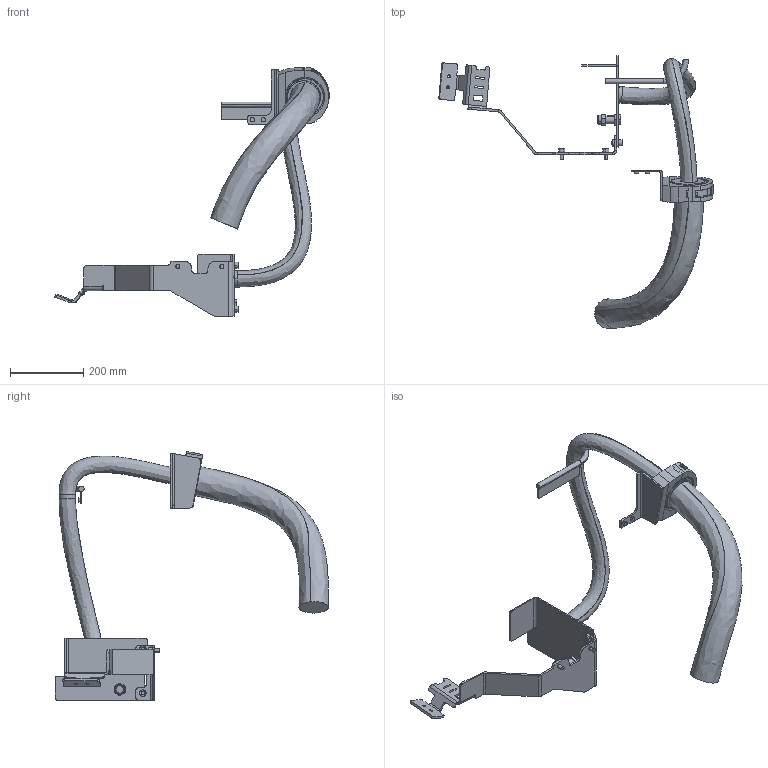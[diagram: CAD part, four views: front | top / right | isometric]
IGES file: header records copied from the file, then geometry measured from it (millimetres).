
Start section: SolidWorks IGES file using analytic representation for surfaces
Global section: file name: C:\DATA\SAP_DOC\LW\IRB 6730S\IRB6730S-MH3_270kg-310_OC_01_SW_J\export\IRB6730S-MH3_270kg-310_OC_01_IGES_J\IRB6730S-MH_ALL-OC_00_LINK03a_CABLE.igs; native system: SolidWorks 2024; preprocessor: SolidWorks 2024; author: SEJOVAS3; date: 260526.131655; units: millimetre
Bounding box: 747.03 x 743.66 x 677.77 mm (x, y, z)
Surface area: 629339.6 mm2 (no closed solid volume)
Topology: 0 solids, 0 shells, 434 faces, 6682 edges, 6682 vertices
Faces by surface type: bspline 254, revolution 180
